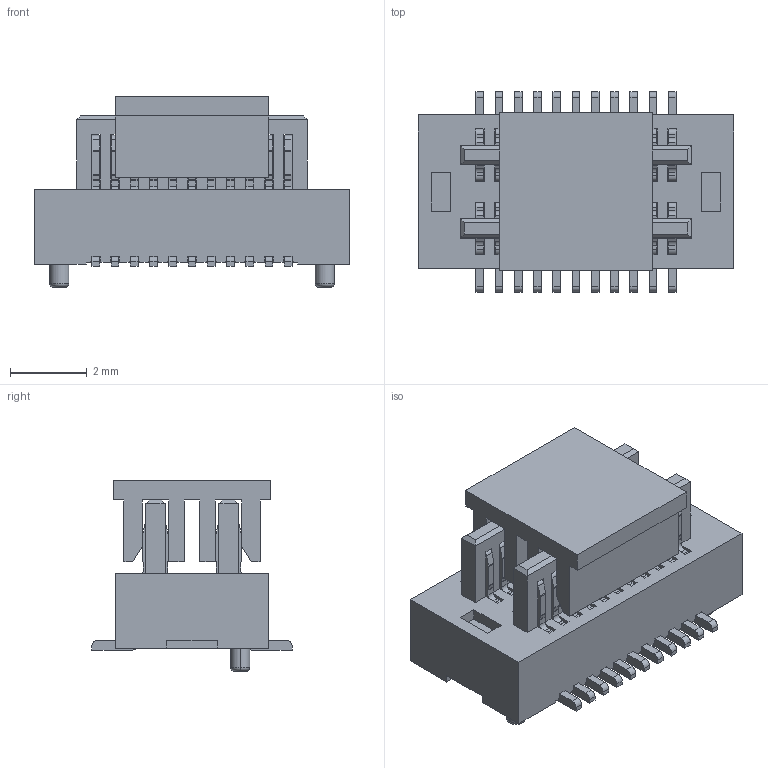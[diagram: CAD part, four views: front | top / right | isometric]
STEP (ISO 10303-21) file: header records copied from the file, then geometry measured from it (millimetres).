
FILE_DESCRIPTION(('CATIA V5 STEP Exchange'),'2;1');
FILE_NAME('F:\黄富鸿\板对板\PBB05\公座\H2.0\编带+盖\HC-PBB05-2-22-M-H2.0-G1-R-P-04（BTB0.5 双槽 公座 立贴 带柱 编带+盖）-HCTL.stp','2025-12-18T03:05:21+00:00',('none'),('none'),'CATIA Version 5 Release 20 GA (IN-10)','CATIA V5 STEP AP203','none');
FILE_SCHEMA(('CONFIG_CONTROL_DESIGN'));
Length unit declared in the file: millimetre
Products named in the file (1): Part2
Bounding box: 8.2 x 5.2 x 4.95 mm (x, y, z)
Volume: 92.6 mm3; surface area: 610.8 mm2
Topology: 24 solids, 24 shells, 1312 faces, 3982 edges, 2636 vertices
Faces by surface type: plane 864, cylinder 444, torus 4
Entity records: 38643 total; most frequent: ORIENTED_EDGE 7964, CARTESIAN_POINT 7156, DIRECTION 4440, EDGE_CURVE 3982, VECTOR 2998, LINE 2998, VERTEX_POINT 2636, EDGE_LOOP 1318
